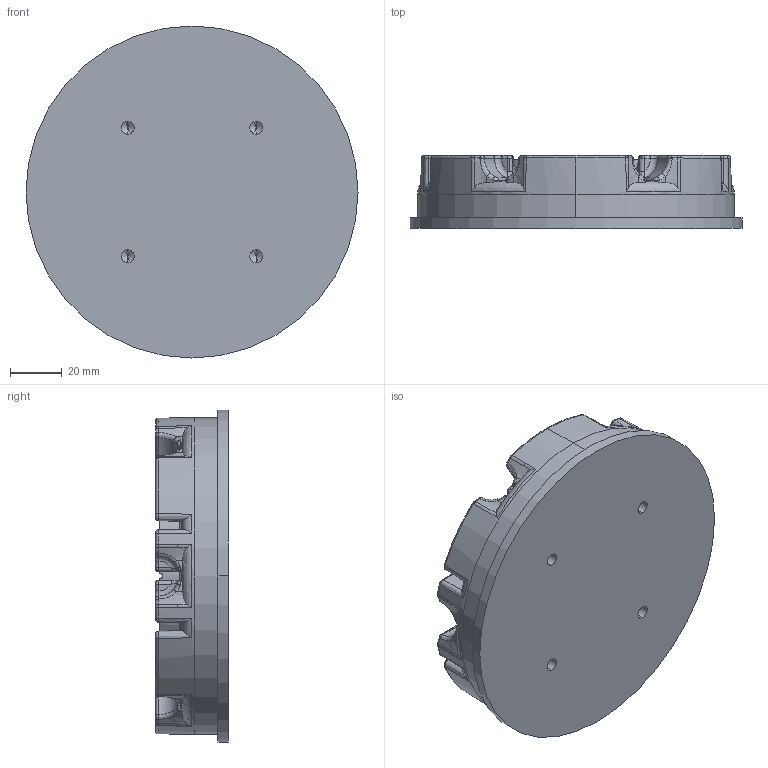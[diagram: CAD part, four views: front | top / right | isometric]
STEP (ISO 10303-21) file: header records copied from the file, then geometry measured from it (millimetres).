
FILE_DESCRIPTION (( 'STEP AP203' ), '1' );
FILE_NAME ('Ïóàíñîí.STEP', '2025-02-03T07:17:51', ( '' ), ( '' ), 'SwSTEP 2.0', 'SolidWorks 2021', '' );
FILE_SCHEMA (( 'CONFIG_CONTROL_DESIGN' ));
Products named in the file (1): Ïóàíñîí
Bounding box: 128 x 28.02 x 128 mm (x, y, z)
Volume: 296816.2 mm3; surface area: 42883 mm2
Topology: 1 solids, 1 shells, 725 faces, 1807 edges, 1038 vertices
Faces by surface type: bspline 292, cylinder 157, plane 122, torus 92, cone 38, sphere 24
Entity records: 32438 total; most frequent: CARTESIAN_POINT 17954, ORIENTED_EDGE 3510, DIRECTION 2441, EDGE_CURVE 1755, AXIS2_PLACEMENT_3D 1048, VERTEX_POINT 1038, EDGE_LOOP 731, FACE_OUTER_BOUND 725
